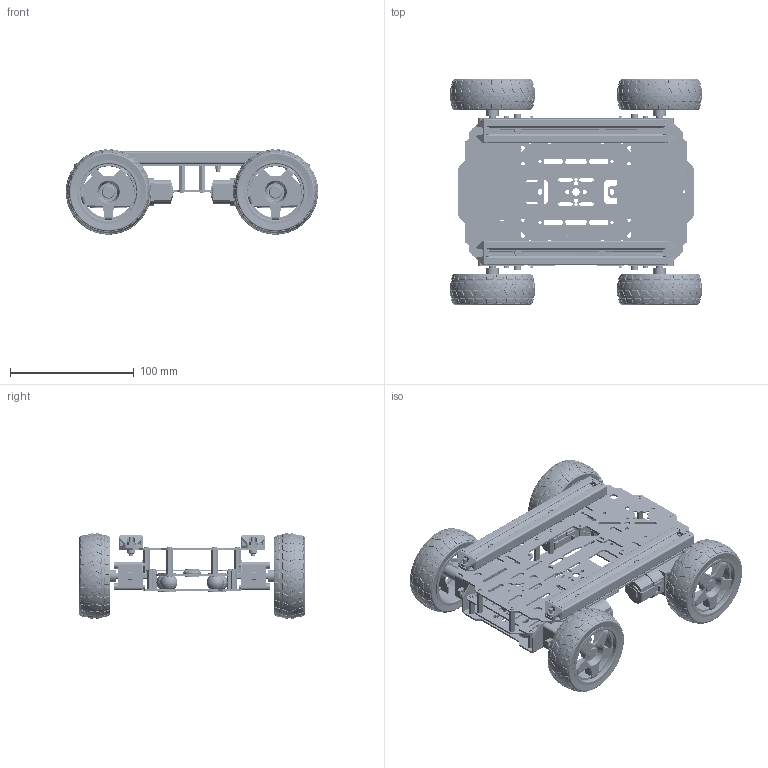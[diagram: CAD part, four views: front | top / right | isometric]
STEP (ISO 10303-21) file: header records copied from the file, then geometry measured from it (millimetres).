
FILE_DESCRIPTION(/* description */ (''),/* implementation_level */ '2;1');
FILE_NAME(/* name */ 'NPv step v1 v5.step',/* time_stamp */ '2023-03-31T13:52:29+08:00',/* author */ (''),/* organization */ (''),/* preprocessor_version */ 'ST-DEVELOPER v19.2',/* originating_system */ 'Autodesk Translation Framework v11.17.0.187',/* authorisation */ '');
FILE_SCHEMA (('AUTOMOTIVE_DESIGN { 1 0 10303 214 3 1 1 }'));
Length unit declared in the file: millimetre
Products named in the file (40): NPv step v1; D; C; A; BO DC Motor v1; Motor Shaft; Motor Casing; Driving Motor; Fasteners; Wheel D65x25 v1; BO DC Motor v1 (1); Motor Shaft (1); Motor Casing (1); Driving Motor (1); Fasteners (1); Wheel D65x25 v1 (1); B; 1020铝型材 v4; 1020堵头 v1; BO DC Motor v1 (2); Motor Shaft (2); Motor Casing (2); Driving Motor (2); Fasteners (2); BO DC Motor v1 (3); Motor Shaft (3); Motor Casing (3); Driving Motor (3); Fasteners (3); Wheel D65x25 v1 (2); Wheel D65x25 v1 (3); 黑色硅胶减震球 16*12*6mm v2; 黑色硅胶减震球 16*12*6mm v3; 六角铜柱 M2.5*14 v1; 六角铜柱 M2.5*20 v2; 黑色金属沉头螺丝 KM2.5*8 v3; 黑色金属杯头内六角螺丝 
M3*10 v2; NUT-M3 v2; 黑色金属杯头内六角螺丝 
M3*22 v1; Robot-Chassis-P 铝合金钣金件加工 230213 复制
Assembly tree (120 placements, depth 3):
  NPv step v1
    A  x2
    C  x2
    D
    BO DC Motor v1
      Motor Shaft
      Motor Casing
      Driving Motor
      Fasteners
    Wheel D65x25 v1
    BO DC Motor v1 (1)
      Motor Shaft (1)
      Motor Casing (1)
      Driving Motor (1)
      Fasteners (1)
    Wheel D65x25 v1 (1)
    B
    1020铝型材 v4  x2
    1020堵头 v1  x4
    BO DC Motor v1 (2)
      Motor Shaft (2)
      Motor Casing (2)
      Driving Motor (2)
      Fasteners (2)
    BO DC Motor v1 (3)
      Motor Shaft (3)
      Motor Casing (3)
      Driving Motor (3)
      Fasteners (3)
    Wheel D65x25 v1 (2)
    Wheel D65x25 v1 (3)
    黑色硅胶减震球 16*12*6mm v3  x8
    黑色硅胶减震球 16*12*6mm v2  x2
    六角铜柱 M2.5*14 v1  x8
    六角铜柱 M2.5*20 v2  x8
    黑色金属沉头螺丝 KM2.5*8 v3  x32
    黑色金属杯头内六角螺丝 
M3*10 v2  x8
    NUT-M3 v2  x8
    黑色金属杯头内六角螺丝 
M3*22 v1  x8
    Robot-Chassis-P 铝合金钣金件加工 230213 复制  x2
Bounding box: 203.7 x 181.91 x 68.82 mm (x, y, z)
Volume: 295499.4 mm3; surface area: 313062.8 mm2
Topology: 134 solids, 142 shells, 7026 faces, 17674 edges, 11456 vertices
Faces by surface type: bspline 2550, plane 2122, cylinder 1738, torus 472, cone 136, sphere 8
Full cylindrical faces by diameter (mm): 1.5 x8, 2.36 x8, 2.4 x8, 2.5 x48, 2.6 x43, 3 x36, 3.1 x6, 3.2 x10, 3.678 x32, 4.1 x4, 4.16 x4, 5 x1, 5.4 x8, 5.46 x8, 5.5 x20, 6 x11, 6.2 x1, 9.5 x20, 9.8 x4, 10 x8, 12 x20, 15 x4, 45.4 x8, 48.2 x16, 48.8 x8, 51.4 x28, 53.8 x8
Entity records: 226698 total; most frequent: CARTESIAN_POINT 135150, ORIENTED_EDGE 22062, DIRECTION 13274, EDGE_CURVE 11031, VERTEX_POINT 7317, EDGE_LOOP 5162, B_SPLINE_CURVE_WITH_KNOTS 5006, AXIS2_PLACEMENT_3D 4861
